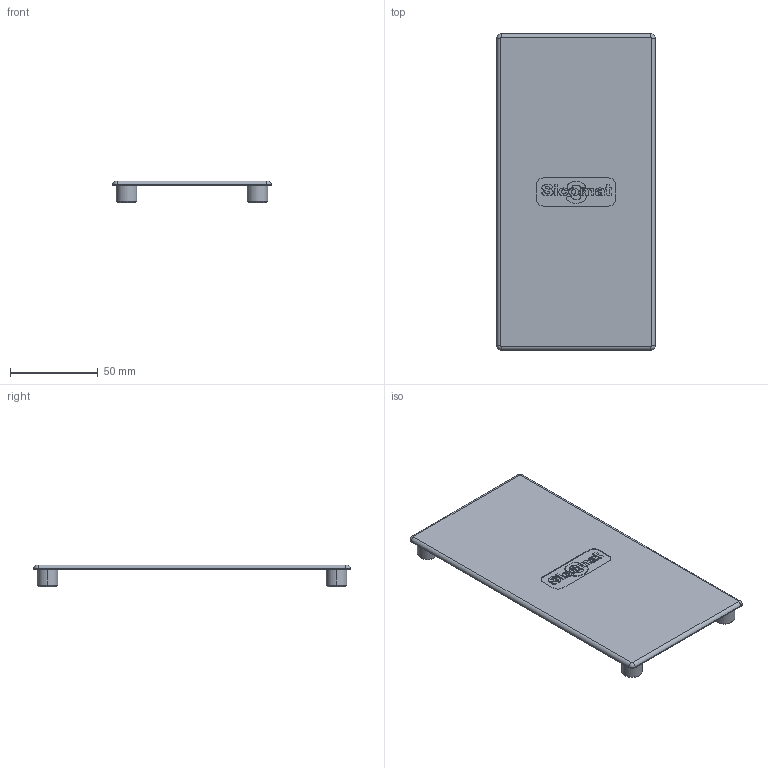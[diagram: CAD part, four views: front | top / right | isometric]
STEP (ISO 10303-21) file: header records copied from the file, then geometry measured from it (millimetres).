
FILE_DESCRIPTION (( 'STEP AP203' ), '1' );
FILE_NAME ('900.400.004.STEP', '2014-11-06T15:34:05', ( '' ), ( '' ), 'SwSTEP 2.0', 'SolidWorks 2012', '' );
FILE_SCHEMA (( 'CONFIG_CONTROL_DESIGN' ));
Length unit declared in the file: millimetre
Products named in the file (1): 900.400.004
Bounding box: 90 x 180 x 12.5 mm (x, y, z)
Volume: 41813.2 mm3; surface area: 35797.3 mm2
Topology: 1 solids, 1 shells, 207 faces, 510 edges, 332 vertices
Faces by surface type: bspline 96, plane 63, cylinder 28, torus 12, cone 8
Entity records: 6701 total; most frequent: CARTESIAN_POINT 2310, ORIENTED_EDGE 1020, DIRECTION 626, EDGE_CURVE 510, VERTEX_POINT 332, EDGE_LOOP 234, LINE 234, VECTOR 234
